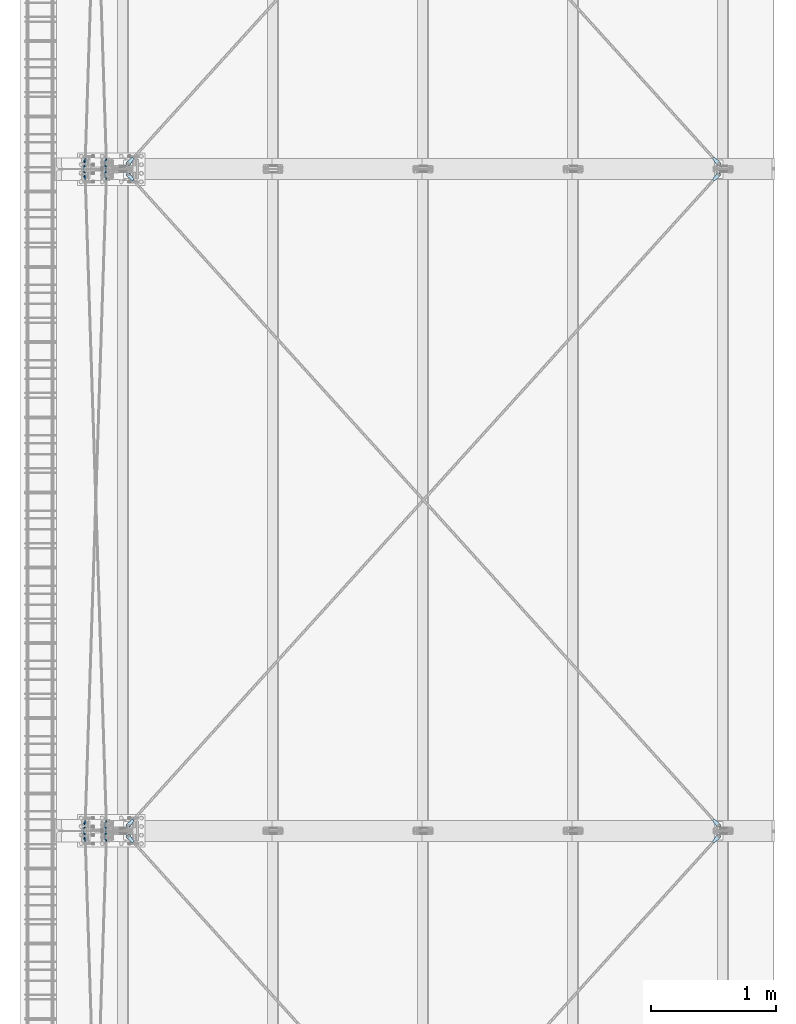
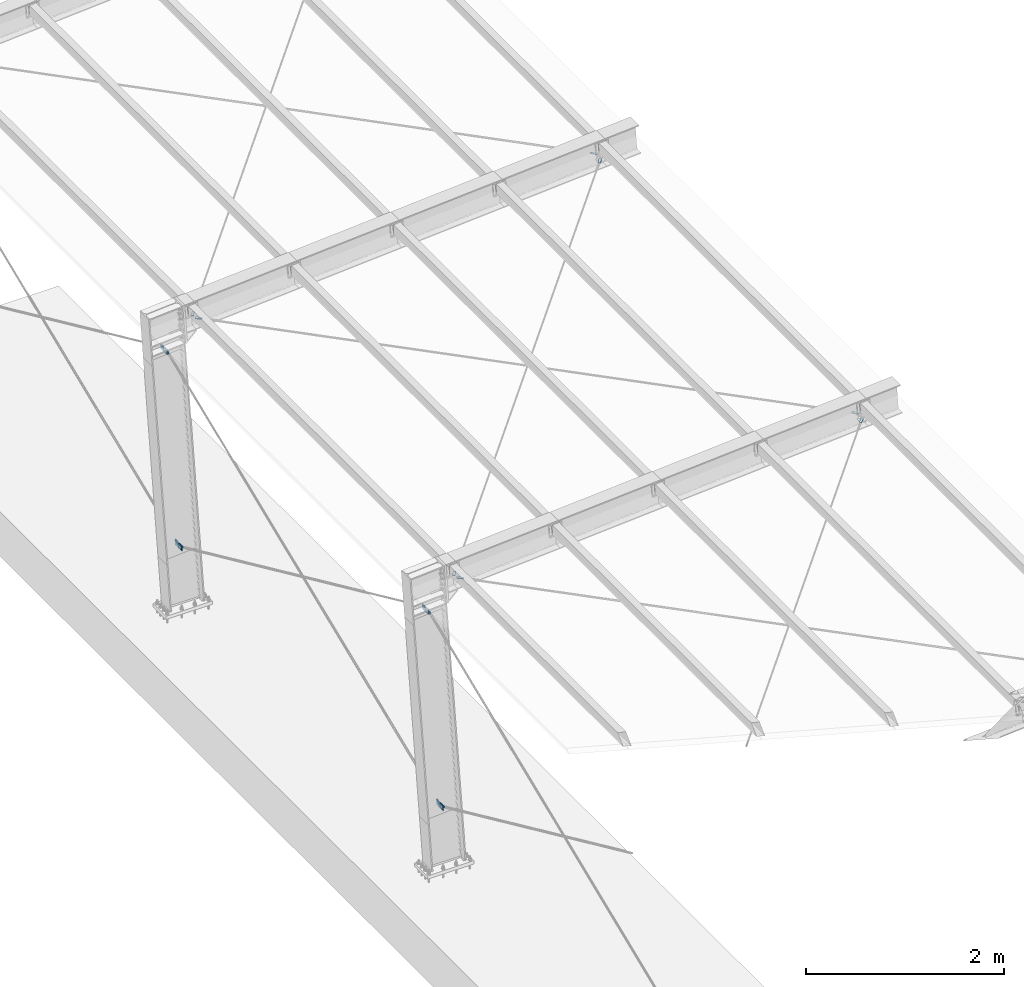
# One storey, part 7 of 72: 24 plates.
"""IFC4 building model written with IfcOpenShell, lengths in metres."""

from ifc_helpers import new_model, si_unit, frame, origin_with_axes, place, context, project, spatial, polyline, outline, extrude, type_object, element, save


model = new_model("IFC4")

# Units and contexts
model_context = context("Model", 3, precision=1e-05, world=origin_with_axes())
ifc_project = project(units=[si_unit("LENGTHUNIT", "METRE"), si_unit("AREAUNIT", "SQUARE_METRE"), si_unit("VOLUMEUNIT", "CUBIC_METRE"), si_unit("MASSUNIT", "GRAM", prefix="KILO"), si_unit("TIMEUNIT", "SECOND"), si_unit("PLANEANGLEUNIT", "RADIAN"), si_unit("SOLIDANGLEUNIT", "STERADIAN"), si_unit("THERMODYNAMICTEMPERATUREUNIT", "DEGREE_CELSIUS")], contexts=[model_context])

# Site, building, storey
placement_1 = place(None, origin_with_axes())
site = spatial("IfcSite", under=ifc_project, at=placement_1, Name="Italia", CompositionType="ELEMENT")
building = spatial("IfcBuilding", under=site, at=placement_1, Name="Pensilina", CompositionType="ELEMENT")
storey = spatial("IfcBuildingStorey", under=building, at=placement_1, Name="Storey 0", CompositionType="ELEMENT", Elevation=0.0)

# Plates
plate_type_1 = type_object("IfcPlateType", Name="Collegamento -198_-202", PredefinedType="SHEET")
placement_2 = place(placement_1, origin_with_axes())
plate_1_placement = place(placement_2, origin_with_axes())
element("IfcPlate", 1, at=plate_1_placement, inside=storey, type_object=plate_type_1, Name="Collegamento -198_-202", context=model_context, shape_type="SweptSolid", body=[
    extrude(outline(polyline([(0.0, 0.0, 0.0), (0.041172, -0.011677, 0.0), (0.0456581, -0.0138451, 0.0), (0.0491362, -0.0174121, 0.0), (0.0511913, -0.0219509, 0.0), (0.0515757, -0.0269183, 0.0), (0.0502453, -0.0317195, 0.0), (0.0494251, -0.0334422, 0.0), (0.0465374, -0.0375025, 0.0), (0.0424395, -0.040336, 0.0), (0.0376215, -0.0416033, 0.0), (0.0326595, -0.0411528, 0.0), (0.0281487, -0.0390384, 0.0), (-0.00687599, -0.0144469, 0.0), (0.0, 0.0, 0.0)])), frame((0.884357, 10.4845, 0.85085), z_axis=(0.999466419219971, -0.032663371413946, 0.0), x_axis=(0.032663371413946, 0.999466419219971, 0.0)), (0.0, 0.0, 1.0), 0.00799999),
])
plate_type_2 = type_object("IfcPlateType", Name="Collegamento -198_-202", PredefinedType="SHEET")
plate_2_placement = place(placement_2, origin_with_axes())
element("IfcPlate", 2, at=plate_2_placement, inside=storey, type_object=plate_type_2, Name="Collegamento -198_-202", context=model_context, shape_type="SweptSolid", body=[
    extrude(outline(polyline([(0.0, 0.0, 0.0), (0.0619993, 2.98023e-07, 0.0), (0.0619993, -0.0619996, 0.0), (0.0, -0.0619999, 0.0), (0.0, 0.0, 0.0)])), frame((0.876667, 10.4941, 0.854037), z_axis=(0.999466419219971, -0.032663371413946, 0.0), x_axis=(0.032663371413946, 0.999466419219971, 0.0)), (0.0, 0.0, 1.0), 0.00799999),
])
plate_type_3 = type_object("IfcPlateType", Name="Collegamento -198_-204", PredefinedType="SHEET")
plate_3_placement = place(placement_2, origin_with_axes())
element("IfcPlate", 3, at=plate_3_placement, inside=storey, type_object=plate_type_3, Name="Collegamento -198_-204", context=model_context, shape_type="SweptSolid", body=[
    extrude(outline(polyline([(0.0, 0.0, 0.0), (0.0411711, -0.011677, 0.0), (0.0456572, -0.0138451, 0.0), (0.0491352, -0.0174121, 0.0), (0.0511904, -0.0219509, 0.0), (0.0515757, -0.0269183, 0.0), (0.0502443, -0.0317195, 0.0), (0.0494251, -0.0334422, 0.0), (0.0465374, -0.0375026, 0.0), (0.0424395, -0.040336, 0.0), (0.0376205, -0.0416033, 0.0), (0.0326586, -0.0411528, 0.0), (0.0281477, -0.0390384, 0.0), (-0.00687695, -0.0144469, 0.0), (0.0, 0.0, 0.0)])), frame((0.892353, 10.6357, 0.850851), z_axis=(-0.999466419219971, -0.032663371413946, 0.0), x_axis=(0.032663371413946, -0.999466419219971, 0.0)), (0.0, 0.0, 1.0), 0.00799999),
])
plate_type_4 = type_object("IfcPlateType", Name="Collegamento -198_-204", PredefinedType="SHEET")
plate_4_placement = place(placement_2, origin_with_axes())
element("IfcPlate", 4, at=plate_4_placement, inside=storey, type_object=plate_type_4, Name="Collegamento -198_-204", context=model_context, shape_type="SweptSolid", body=[
    extrude(outline(polyline([(0.0, 0.0, 0.0), (-0.0620012, -4.76837e-07, 0.0), (-0.0620003, -0.0620003, 0.0), (0.0, -0.0619999, 0.0), (0.0, 0.0, 0.0)])), frame((0.876667, 10.6259, 0.854037), z_axis=(0.999466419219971, 0.032663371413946, 0.0), x_axis=(-0.032663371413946, 0.999466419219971, 0.0)), (0.0, 0.0, 1.0), 0.00799999),
])
plate_type_5 = type_object("IfcPlateType", Name="Collegamento -199_-203", PredefinedType="SHEET")
plate_5_placement = place(placement_2, origin_with_axes())
element("IfcPlate", 5, at=plate_5_placement, inside=storey, type_object=plate_type_5, Name="Collegamento -199_-203", context=model_context, shape_type="SweptSolid", body=[
    extrude(outline(polyline([(0.0, 0.0, 0.0), (0.041172, -0.011677, 0.0), (0.0456581, -0.0138451, 0.0), (0.0491362, -0.0174121, 0.0), (0.0511913, -0.021951, 0.0), (0.0515757, -0.0269183, 0.0), (0.0502453, -0.0317195, 0.0), (0.0494251, -0.0334422, 0.0), (0.0465374, -0.0375026, 0.0), (0.0424395, -0.040336, 0.0), (0.0376215, -0.0416033, 0.0), (0.0326595, -0.0411528, 0.0), (0.0281487, -0.0390384, 0.0), (-0.00687599, -0.0144469, 0.0), (0.0, 0.0, 0.0)])), frame((0.884357, 15.7645, 0.85085), z_axis=(0.999466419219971, -0.032663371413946, 0.0), x_axis=(0.032663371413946, 0.999466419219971, 0.0)), (0.0, 0.0, 1.0), 0.00799999),
])
plate_type_6 = type_object("IfcPlateType", Name="Collegamento -199_-203", PredefinedType="SHEET")
plate_6_placement = place(placement_2, origin_with_axes())
element("IfcPlate", 6, at=plate_6_placement, inside=storey, type_object=plate_type_6, Name="Collegamento -199_-203", context=model_context, shape_type="SweptSolid", body=[
    extrude(outline(polyline([(0.0, 0.0, 0.0), (0.0619993, 7.7486e-07, 0.0), (0.0619993, -0.0619996, 0.0), (0.0, -0.0619999, 0.0), (0.0, 0.0, 0.0)])), frame((0.876667, 15.7741, 0.854037), z_axis=(0.999466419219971, -0.032663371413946, 0.0), x_axis=(0.032663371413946, 0.999466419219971, 0.0)), (0.0, 0.0, 1.0), 0.00799999),
])
plate_type_7 = type_object("IfcPlateType", Name="Collegamento -199_-205", PredefinedType="SHEET")
plate_7_placement = place(placement_2, origin_with_axes())
element("IfcPlate", 7, at=plate_7_placement, inside=storey, type_object=plate_type_7, Name="Collegamento -199_-205", context=model_context, shape_type="SweptSolid", body=[
    extrude(outline(polyline([(0.0, 0.0, 0.0), (0.041172, -0.011677, 0.0), (0.0456581, -0.0138451, 0.0), (0.0491362, -0.0174121, 0.0), (0.0511913, -0.021951, 0.0), (0.0515757, -0.0269183, 0.0), (0.0502443, -0.0317195, 0.0), (0.0494251, -0.0334422, 0.0), (0.0465374, -0.0375026, 0.0), (0.0424395, -0.040336, 0.0), (0.0376215, -0.0416033, 0.0), (0.0326586, -0.0411528, 0.0), (0.0281487, -0.0390384, 0.0), (-0.00687695, -0.0144469, 0.0), (0.0, 0.0, 0.0)])), frame((0.892353, 15.9157, 0.85085), z_axis=(-0.999462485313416, -0.032782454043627, 0.0), x_axis=(0.032782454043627, -0.999462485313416, 0.0)), (0.0, 0.0, 1.0), 0.00800002),
])
plate_type_8 = type_object("IfcPlateType", Name="Collegamento -199_-205", PredefinedType="SHEET")
plate_8_placement = place(placement_2, origin_with_axes())
element("IfcPlate", 8, at=plate_8_placement, inside=storey, type_object=plate_type_8, Name="Collegamento -199_-205", context=model_context, shape_type="SweptSolid", body=[
    extrude(outline(polyline([(0.0, 0.0, 0.0), (-0.0620003, -9.53674e-07, 0.0), (-0.0619993, -0.0620008, 0.0), (9.53674e-07, -0.0620003, 0.0), (0.0, 0.0, 0.0)])), frame((0.876667, 15.9059, 0.854038), z_axis=(0.999462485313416, 0.032782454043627, 0.0), x_axis=(-0.032782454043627, 0.999462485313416, 0.0)), (0.0, 0.0, 1.0), 0.00800002),
])
plate_type_9 = type_object("IfcPlateType", Name="Collegamento -203_-197", PredefinedType="SHEET")
plate_9_placement = place(placement_2, origin_with_axes())
element("IfcPlate", 9, at=plate_9_placement, inside=storey, type_object=plate_type_9, Name="Collegamento -203_-197", context=model_context, shape_type="SweptSolid", body=[
    extrude(outline(polyline([(0.0, 0.0, 0.0), (0.0350246, 0.0245914, 0.0), (0.0395365, 0.0267057, 0.0), (0.0444975, 0.0271564, 0.0), (0.0493155, 0.0258889, 0.0), (0.0534134, 0.0230556, 0.0), (0.0563011, 0.0189953, 0.0), (0.0571203, 0.0172725, 0.0), (0.0584517, 0.0124712, 0.0), (0.0580673, 0.00750399, 0.0), (0.0560122, 0.00296497, 0.0), (0.0525341, -0.000602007, 0.0), (0.048048, -0.00276995, 0.0), (0.00687599, -0.014447, 0.0), (0.0, 0.0, 0.0)])), frame((0.716774, 10.4774, 3.29015), z_axis=(0.999466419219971, 0.032663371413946, 0.0), x_axis=(-0.032663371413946, 0.999466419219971, 0.0)), (0.0, 0.0, 1.0), 0.00799999),
])
plate_type_10 = type_object("IfcPlateType", Name="Collegamento -203_-197", PredefinedType="SHEET")
plate_10_placement = place(placement_2, origin_with_axes())
element("IfcPlate", 10, at=plate_10_placement, inside=storey, type_object=plate_type_10, Name="Collegamento -203_-197", context=model_context, shape_type="SweptSolid", body=[
    extrude(outline(polyline([(0.0, 0.0, 0.0), (0.0620012, 2.38419e-07, 0.0), (0.0620012, -0.0619998, 0.0), (9.53674e-07, -0.0620003, 0.0), (0.0, 0.0, 0.0)])), frame((0.708248, 10.4933, 3.33351), z_axis=(0.99945855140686, 0.032902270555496, 0.0), x_axis=(-0.032902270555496, 0.99945855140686, 0.0)), (0.0, 0.0, 1.0), 0.00799988),
])
plate_type_11 = type_object("IfcPlateType", Name="Collegamento -203_-199", PredefinedType="SHEET")
plate_11_placement = place(placement_2, origin_with_axes())
element("IfcPlate", 11, at=plate_11_placement, inside=storey, type_object=plate_type_11, Name="Collegamento -203_-199", context=model_context, shape_type="SweptSolid", body=[
    extrude(outline(polyline([(0.0, 0.0, 0.0), (0.0350237, 0.0245914, 0.0), (0.0395355, 0.026706, 0.0), (0.0444975, 0.0271564, 0.0), (0.0493145, 0.0258892, 0.0), (0.0534134, 0.0230558, 0.0), (0.0563002, 0.0189953, 0.0), (0.0571213, 0.0172727, 0.0), (0.0584517, 0.0124714, 0.0), (0.0580664, 0.00750399, 0.0), (0.0560112, 0.00296521, 0.0), (0.0525331, -0.000601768, 0.0), (0.048048, -0.00276995, 0.0), (0.00687599, -0.0144467, 0.0), (0.0, 0.0, 0.0)])), frame((0.72477, 10.6423, 3.29015), z_axis=(-0.999462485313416, 0.032782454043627, 0.0), x_axis=(-0.032782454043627, -0.999462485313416, 0.0)), (0.0, 0.0, 1.0), 0.00800002),
])
plate_type_12 = type_object("IfcPlateType", Name="Collegamento -203_-199", PredefinedType="SHEET")
plate_12_placement = place(placement_2, origin_with_axes())
element("IfcPlate", 12, at=plate_12_placement, inside=storey, type_object=plate_type_12, Name="Collegamento -203_-199", context=model_context, shape_type="SweptSolid", body=[
    extrude(outline(polyline([(0.0, 0.0, 0.0), (-0.0620012, -1.19209e-06, 0.0), (-0.0620003, -0.0620017, 0.0), (0.0, -0.0620008, 0.0), (0.0, 0.0, 0.0)])), frame((0.708248, 10.6267, 3.33351), z_axis=(0.999462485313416, -0.032782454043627, 0.0), x_axis=(0.032782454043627, 0.999462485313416, 0.0)), (0.0, 0.0, 1.0), 0.00800002),
])
plate_type_13 = type_object("IfcPlateType", Name="Collegamento -204_-198", PredefinedType="SHEET")
plate_13_placement = place(placement_2, origin_with_axes())
element("IfcPlate", 13, at=plate_13_placement, inside=storey, type_object=plate_type_13, Name="Collegamento -204_-198", context=model_context, shape_type="SweptSolid", body=[
    extrude(outline(polyline([(0.0, 0.0, 0.0), (0.0350246, 0.0245914, 0.0), (0.0395355, 0.0267057, 0.0), (0.0444975, 0.0271564, 0.0), (0.0493155, 0.0258889, 0.0), (0.0534134, 0.0230556, 0.0), (0.0563011, 0.0189953, 0.0), (0.0571203, 0.0172725, 0.0), (0.0584517, 0.0124712, 0.0), (0.0580673, 0.00750399, 0.0), (0.0560122, 0.00296497, 0.0), (0.0525341, -0.000602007, 0.0), (0.048048, -0.00276995, 0.0), (0.00687599, -0.014447, 0.0), (0.0, 0.0, 0.0)])), frame((0.716774, 15.7574, 3.29015), z_axis=(0.999466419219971, 0.032663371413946, 0.0), x_axis=(-0.032663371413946, 0.999466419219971, 0.0)), (0.0, 0.0, 1.0), 0.00799999),
])
plate_type_14 = type_object("IfcPlateType", Name="Collegamento -204_-198", PredefinedType="SHEET")
plate_14_placement = place(placement_2, origin_with_axes())
element("IfcPlate", 14, at=plate_14_placement, inside=storey, type_object=plate_type_14, Name="Collegamento -204_-198", context=model_context, shape_type="SweptSolid", body=[
    extrude(outline(polyline([(0.0, 0.0, 0.0), (0.0620022, 0.0, 0.0), (0.0620031, -0.062, 0.0), (9.53674e-07, -0.0620003, 0.0), (0.0, 0.0, 0.0)])), frame((0.708248, 15.7733, 3.33351), z_axis=(0.999458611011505, 0.032901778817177, 0.0), x_axis=(-0.032901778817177, 0.999458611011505, 0.0)), (0.0, 0.0, 1.0), 0.008),
])
plate_type_15 = type_object("IfcPlateType", Name="Collegamento -204_-200", PredefinedType="SHEET")
plate_15_placement = place(placement_2, origin_with_axes())
element("IfcPlate", 15, at=plate_15_placement, inside=storey, type_object=plate_type_15, Name="Collegamento -204_-200", context=model_context, shape_type="SweptSolid", body=[
    extrude(outline(polyline([(0.0, 0.0, 0.0), (0.0350246, 0.0245914, 0.0), (0.0395355, 0.026706, 0.0), (0.0444975, 0.0271564, 0.0), (0.0493164, 0.0258892, 0.0), (0.0534143, 0.0230556, 0.0), (0.0563021, 0.0189953, 0.0), (0.0571213, 0.0172725, 0.0), (0.0584526, 0.0124714, 0.0), (0.0580673, 0.00750399, 0.0), (0.0560131, 0.00296521, 0.0), (0.0525341, -0.000601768, 0.0), (0.048048, -0.00276995, 0.0), (0.00687695, -0.014447, 0.0), (0.0, 0.0, 0.0)])), frame((0.72477, 15.9223, 3.29015), z_axis=(-0.999466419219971, 0.032663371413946, 0.0), x_axis=(-0.032663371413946, -0.999466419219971, 0.0)), (0.0, 0.0, 1.0), 0.00799999),
])
plate_type_16 = type_object("IfcPlateType", Name="Collegamento -204_-200", PredefinedType="SHEET")
plate_16_placement = place(placement_2, origin_with_axes())
element("IfcPlate", 16, at=plate_16_placement, inside=storey, type_object=plate_type_16, Name="Collegamento -204_-200", context=model_context, shape_type="SweptSolid", body=[
    extrude(outline(polyline([(0.0, 0.0, 0.0), (-0.0620003, 0.0, 0.0), (-0.0619984, -0.0620003, 0.0), (9.53674e-07, -0.0620003, 0.0), (0.0, 0.0, 0.0)])), frame((0.708248, 15.9067, 3.33352), z_axis=(0.999462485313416, -0.032782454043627, 0.0), x_axis=(0.032782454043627, 0.999462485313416, 0.0)), (0.0, 0.0, 1.0), 0.00800002),
])
plate_type_17 = type_object("IfcPlateType", Name="Collegamento 0203_0602", PredefinedType="SHEET")
plate_17_placement = place(placement_2, origin_with_axes())
element("IfcPlate", 17, at=plate_17_placement, inside=storey, type_object=plate_type_17, Name="Collegamento 0203_0602", context=model_context, shape_type="SweptSolid", body=[
    extrude(outline(polyline([(0.0, 0.0, 0.0), (0.00629616, -0.059073, 0.0), (0.00600052, -0.0638714, 0.0), (0.00414228, -0.068305, 0.0), (0.000927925, -0.0718799, 0.0), (-0.00328398, -0.0741968, 0.0), (-0.00802422, -0.0749993, 0.0), (-0.0119882, -0.0749984, 0.0), (-0.0167284, -0.0741959, 0.0), (-0.0209394, -0.0718775, 0.0), (-0.0241532, -0.0683017, 0.0), (-0.026011, -0.063868, 0.0), (-0.0263057, -0.0590696, 0.0), (-0.0199995, 2.38419e-06, 0.0), (0.0, 0.0, 0.0)])), frame((1.09668, 10.4647, 3.58711), z_axis=(-0.030970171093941, 0.034141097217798, 0.99893707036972), x_axis=(-0.740665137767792, -0.671874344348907, 0.0)), (0.0, 0.0, 1.0), 0.0100001),
])
plate_type_18 = type_object("IfcPlateType", Name="Collegamento 0203_0604", PredefinedType="SHEET")
plate_18_placement = place(placement_2, origin_with_axes())
element("IfcPlate", 18, at=plate_18_placement, inside=storey, type_object=plate_type_18, Name="Collegamento 0203_0604", context=model_context, shape_type="SweptSolid", body=[
    extrude(outline(polyline([(0.0, 0.0, 0.0), (0.00630665, -0.0590715, 0.0), (0.00601149, -0.0638704, 0.0), (0.00415373, -0.0683041, 0.0), (0.000940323, -0.0718794, 0.0), (-0.00327158, -0.0741978, 0.0), (-0.00801086, -0.0750008, 0.0), (-0.0119758, -0.0750008, 0.0), (-0.016716, -0.0741987, 0.0), (-0.0209274, -0.0718813, 0.0), (-0.0241418, -0.068306, 0.0), (-0.0260005, -0.0638723, 0.0), (-0.0262961, -0.0590744, 0.0), (-0.02, -1.90735e-06, 0.0), (0.0, 0.0, 0.0)])), frame((1.11149, 10.6419, 3.56709), z_axis=(-0.03097090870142, -0.034141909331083, 0.998937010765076), x_axis=(0.740665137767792, -0.671874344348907, 0.0)), (0.0, 0.0, 1.0), 0.00999989),
])
plate_type_19 = type_object("IfcPlateType", Name="Collegamento 0204_0603", PredefinedType="SHEET")
plate_19_placement = place(placement_2, origin_with_axes())
element("IfcPlate", 19, at=plate_19_placement, inside=storey, type_object=plate_type_19, Name="Collegamento 0204_0603", context=model_context, shape_type="SweptSolid", body=[
    extrude(outline(polyline([(0.0, 0.0, 0.0), (0.00628567, -0.0590734, 0.0), (0.00598907, -0.0638723, 0.0), (0.00412941, -0.068305, 0.0), (0.000914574, -0.0718794, 0.0), (-0.00329781, -0.0741959, 0.0), (-0.00803852, -0.0749969, 0.0), (-0.012002, -0.074996, 0.0), (-0.0167427, -0.074192, 0.0), (-0.0209532, -0.0718727, 0.0), (-0.0241661, -0.0682964, 0.0), (-0.0260229, -0.0638628, 0.0), (-0.0263166, -0.0590639, 0.0), (-0.0199986, 6.67572e-06, 0.0), (0.0, 0.0, 0.0)])), frame((1.09668, 15.7447, 3.58711), z_axis=(-0.030982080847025, 0.034141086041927, 0.998936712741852), x_axis=(-0.740536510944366, -0.672016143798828, 0.0)), (0.0, 0.0, 1.0), 0.0100001),
])
plate_type_20 = type_object("IfcPlateType", Name="Collegamento 0204_0605", PredefinedType="SHEET")
plate_20_placement = place(placement_2, origin_with_axes())
element("IfcPlate", 20, at=plate_20_placement, inside=storey, type_object=plate_type_20, Name="Collegamento 0204_0605", context=model_context, shape_type="SweptSolid", body=[
    extrude(outline(polyline([(0.0, 0.0, 0.0), (0.00630665, -0.0590715, 0.0), (0.00601196, -0.0638704, 0.0), (0.00415421, -0.0683041, 0.0), (0.000940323, -0.0718794, 0.0), (-0.0032711, -0.0741968, 0.0), (-0.00801086, -0.0749998, 0.0), (-0.0119753, -0.0750008, 0.0), (-0.016715, -0.0741987, 0.0), (-0.0209274, -0.0718813, 0.0), (-0.0241413, -0.0683069, 0.0), (-0.026, -0.0638733, 0.0), (-0.0262957, -0.0590744, 0.0), (-0.0200005, -9.53674e-07, 0.0), (0.0, 0.0, 0.0)])), frame((1.11149, 15.9219, 3.56709), z_axis=(-0.03097090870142, -0.034141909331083, 0.998937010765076), x_axis=(0.740665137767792, -0.671874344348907, 0.0)), (0.0, 0.0, 1.0), 0.00999989),
])
plate_type_21 = type_object("IfcPlateType", Name="Collegamento 0603_0202", PredefinedType="SHEET")
plate_21_placement = place(placement_2, origin_with_axes())
element("IfcPlate", 21, at=plate_21_placement, inside=storey, type_object=plate_type_21, Name="Collegamento 0603_0202", context=model_context, shape_type="SweptSolid", body=[
    extrude(outline(polyline([(0.0, 0.0, 0.0), (-0.00631809, 0.0590706, 0.0), (-0.00602436, 0.0638695, 0.0), (-0.00416732, 0.0683041, 0.0), (-0.000955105, 0.0718794, 0.0), (0.00325632, 0.0741987, 0.0), (0.00799561, 0.0750017, 0.0), (0.01196, 0.0750036, 0.0), (0.016701, 0.0742025, 0.0), (0.0209126, 0.0718861, 0.0), (0.0241275, 0.0683117, 0.0), (0.0259871, 0.0638781, 0.0), (0.0262835, 0.0590801, 0.0), (0.02, 5.72205e-06, 0.0), (0.0, 0.0, 0.0)])), frame((5.73957, 10.4647, 3.89506), z_axis=(0.030946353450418, 0.03414112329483, -0.998937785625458), x_axis=(-0.740922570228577, 0.671590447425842, 0.0)), (0.0, 0.0, 1.0), 0.0100001),
])
plate_type_22 = type_object("IfcPlateType", Name="Collegamento 0603_0204", PredefinedType="SHEET")
plate_22_placement = place(placement_2, origin_with_axes())
element("IfcPlate", 22, at=plate_22_placement, inside=storey, type_object=plate_type_22, Name="Collegamento 0603_0204", context=model_context, shape_type="SweptSolid", body=[
    extrude(outline(polyline([(0.0, 0.0, 0.0), (-0.00632858, 0.0590696, 0.0), (-0.0060358, 0.0638683, 0.0), (-0.00417995, 0.0683026, 0.0), (-0.000967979, 0.0718794, 0.0), (0.00324345, 0.074199, 0.0), (0.00798225, 0.0750039, 0.0), (0.0119476, 0.0750058, 0.0), (0.0166874, 0.0742059, 0.0), (0.0209007, 0.0718894, 0.0), (0.0241165, 0.0683157, 0.0), (0.0259762, 0.0638828, 0.0), (0.0262737, 0.0590854, 0.0), (0.0200005, 9.53674e-06, 0.0), (0.0, 0.0, 0.0)])), frame((5.72475, 10.6419, 3.91508), z_axis=(0.030993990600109, -0.034141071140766, -0.998936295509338), x_axis=(0.740407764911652, 0.672157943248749, 0.0)), (0.0, 0.0, 1.0), 0.0100001),
])
plate_type_23 = type_object("IfcPlateType", Name="Collegamento 0604_0203", PredefinedType="SHEET")
plate_23_placement = place(placement_2, origin_with_axes())
element("IfcPlate", 23, at=plate_23_placement, inside=storey, type_object=plate_type_23, Name="Collegamento 0604_0203", context=model_context, shape_type="SweptSolid", body=[
    extrude(outline(polyline([(0.0, 0.0, 0.0), (-0.00627375, 0.0590754, 0.0), (-0.0059762, 0.0638742, 0.0), (-0.00411606, 0.0683069, 0.0), (-0.000900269, 0.0718803, 0.0), (0.00331211, 0.0741959, 0.0), (0.00805283, 0.074996, 0.0), (0.0120177, 0.074995, 0.0), (0.016757, 0.0741901, 0.0), (0.020967, 0.0718699, 0.0), (0.0241799, 0.0682936, 0.0), (0.0260363, 0.063859, 0.0), (0.0263286, 0.0590611, 0.0), (0.02, -8.58307e-06, 0.0), (0.0, 0.0, 0.0)])), frame((5.73957, 15.7447, 3.89506), z_axis=(0.030993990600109, 0.034141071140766, -0.998936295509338), x_axis=(-0.740407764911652, 0.672157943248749, 0.0)), (0.0, 0.0, 1.0), 0.0100001),
])
plate_type_24 = type_object("IfcPlateType", Name="Collegamento 0604_0205", PredefinedType="SHEET")
plate_24_placement = place(placement_2, origin_with_axes())
element("IfcPlate", 24, at=plate_24_placement, inside=storey, type_object=plate_type_24, Name="Collegamento 0604_0205", context=model_context, shape_type="SweptSolid", body=[
    extrude(outline(polyline([(0.0, 0.0, 0.0), (-0.00628376, 0.0590749, 0.0), (-0.00598717, 0.0638728, 0.0), (-0.0041275, 0.068306, 0.0), (-0.000912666, 0.0718803, 0.0), (0.00329971, 0.0741963, 0.0), (0.00804043, 0.0749979, 0.0), (0.0120049, 0.0749965, 0.0), (0.0167446, 0.0741925, 0.0), (0.0209551, 0.0718732, 0.0), (0.024168, 0.0682974, 0.0), (0.0260258, 0.0638633, 0.0), (0.0263186, 0.0590644, 0.0), (0.0200005, -5.72205e-06, 0.0), (0.0, 0.0, 0.0)])), frame((5.72475, 15.9219, 3.91508), z_axis=(0.030946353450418, -0.03414112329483, -0.998937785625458), x_axis=(0.740922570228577, 0.671590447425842, 0.0)), (0.0, 0.0, 1.0), 0.0100001),
])

save(model, "model.ifc")
